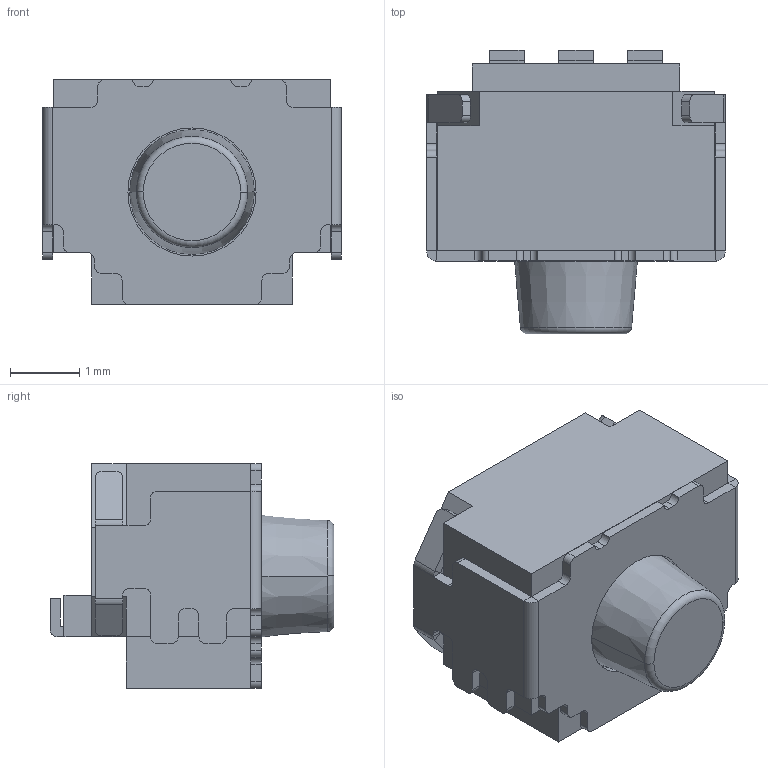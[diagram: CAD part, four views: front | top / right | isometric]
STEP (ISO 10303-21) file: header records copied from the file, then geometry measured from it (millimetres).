
FILE_DESCRIPTION((''),'2;1');
FILE_NAME('JQD3444-B0391-02AG-1-105_ASM','2026-05-21T17:50:26',('Admin'),(''),'CREO PARAMETRIC BY PTC INC, 2019224','CREO PARAMETRIC BY PTC INC, 2019224','');
FILE_SCHEMA(('AUTOMOTIVE_DESIGN { 1 0 10303 214 1 1 1 1 }'));
Length unit declared in the file: millimetre
Products named in the file (3): JQD3444-B0391-02AG-1-105_01; JQD3444-B0391-02AG-1-105_02; JQD3444-B0391-02AG-1-105_ASM
Assembly tree (2 placements, depth 2):
  JQD3444-B0391-02AG-1-105_ASM
    JQD3444-B0391-02AG-1-105_01
    JQD3444-B0391-02AG-1-105_02
Bounding box: 4.32 x 4.1 x 3.25 mm (x, y, z)
Volume: 32.6 mm3; surface area: 109.1 mm2
Topology: 2 solids, 2 shells, 214 faces, 571 edges, 364 vertices
Faces by surface type: plane 149, cylinder 61, cone 2, torus 2
Entity records: 7628 total; most frequent: CARTESIAN_POINT 1163, DIRECTION 1151, ORIENTED_EDGE 1138, EDGE_CURVE 569, VECTOR 441, LINE 441, VERTEX_POINT 360, AXIS2_PLACEMENT_3D 355
